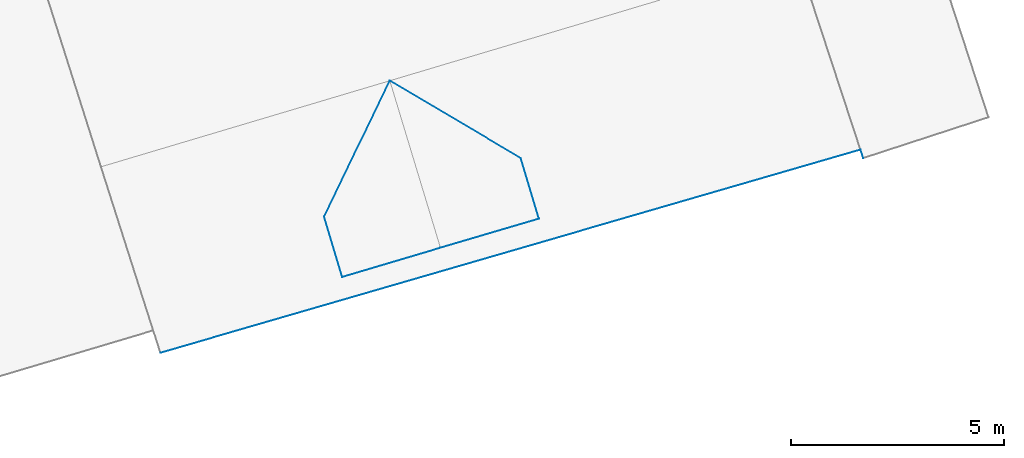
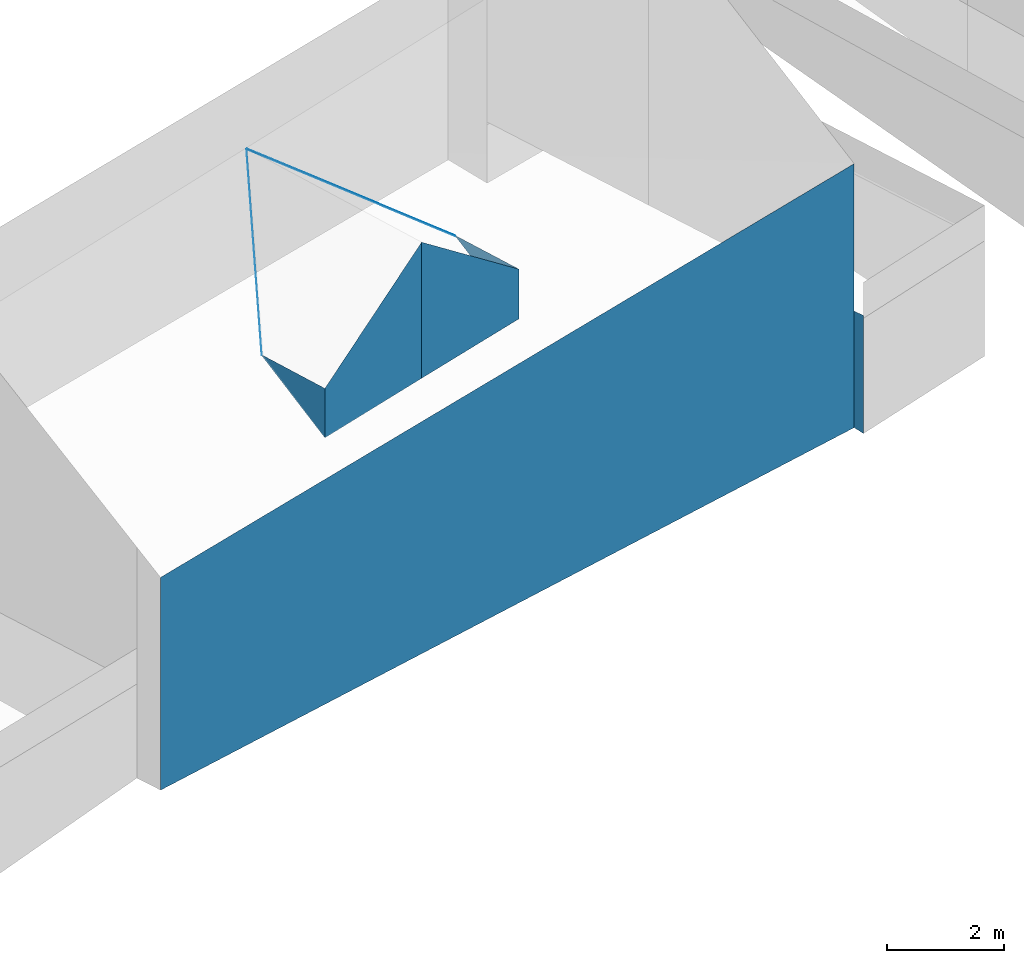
# Not in any storey, part 20 of 57: 8 walls.
"""IFC4 building model written with IfcOpenShell, lengths in metres."""

from ifc_helpers import new_model, entity, si_unit, converted_unit, origin, place, context, subcontext, project, spatial, face_set, surface_model, element, save


model = new_model("IFC4")

# Units and contexts
model_context = context("Model", 3, precision=1e-05, world=origin())
body_context = subcontext(model_context, "Body", "Model", "MODEL_VIEW")
ifc_project = project(units=[converted_unit("PLANEANGLEUNIT", "DEGREE", entity("IfcRatioMeasure", 0.0174532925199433), si_unit("PLANEANGLEUNIT", "RADIAN"), dimensions=[0, 0, 0, 0, 0, 0, 0]), si_unit("AREAUNIT", "SQUARE_METRE"), si_unit("LENGTHUNIT", "METRE")], contexts=[model_context])

# Site, building
site_placement = place(None, origin())
site = spatial("IfcSite", under=ifc_project, at=site_placement, Name="_site")
building_1_placement = place(site_placement, origin())
building_1 = spatial("IfcBuilding", under=site, at=building_1_placement, Name="_building")

# Wall
wall_1_placement = place(building_1_placement, origin())
element("IfcWall", 1, at=wall_1_placement, inside=building_1, Name="Wall", PredefinedType="NOTDEFINED", context=body_context, shape_type="SurfaceModel", body=[
    surface_model("IfcFaceBasedSurfaceModel", [(138.698, 137.892, 118.75), (138.632, 138.094, 118.74), (138.632, 138.094, 116.307), (138.698, 137.892, 116.282)], [face_set([[[0, 1, 2, 3]]])]),
])

# Building
building_2_placement = place(site_placement, origin())
building_2 = spatial("IfcBuilding", under=site, at=building_2_placement, Name="_building")

# Walls
wall_2_placement = place(building_2_placement, origin())
element("IfcWall", 2, at=wall_2_placement, inside=building_2, Name="Wall", PredefinedType="NOTDEFINED", context=body_context, shape_type="SurfaceModel", body=[
    surface_model("IfcFaceBasedSurfaceModel", [(126.018, 136.518, 123.2), (127.561, 139.715, 125.033), (127.561, 139.715, 125.013), (126.018, 136.518, 123.18)], [face_set([[[0, 1, 2, 3]]])]),
])
wall_3_placement = place(building_2_placement, origin())
element("IfcWall", 3, at=wall_3_placement, inside=building_2, Name="Wall", PredefinedType="NOTDEFINED", context=body_context, shape_type="SurfaceModel", body=[
    surface_model("IfcFaceBasedSurfaceModel", [(138.632, 138.094, 121.82), (122.17, 133.316, 121.84), (122.17, 133.316, 117.395), (138.632, 138.094, 116.307)], [face_set([[[0, 1, 2, 3]]])]),
])
wall_4_placement = place(building_2_placement, origin())
element("IfcWall", 4, at=wall_4_placement, inside=building_2, Name="Wall", PredefinedType="NOTDEFINED", context=body_context, shape_type="SurfaceModel", body=[
    surface_model("IfcFaceBasedSurfaceModel", [(126.445, 135.097, 123.21), (126.018, 136.518, 123.2), (126.018, 136.518, 123.18), (126.445, 135.097, 122.177)], [face_set([[[0, 1, 2, 3]]])]),
])
wall_5_placement = place(building_2_placement, origin())
element("IfcWall", 5, at=wall_5_placement, inside=building_2, Name="Wall", PredefinedType="NOTDEFINED", context=body_context, shape_type="SurfaceModel", body=[
    surface_model("IfcFaceBasedSurfaceModel", [(127.561, 139.715, 125.033), (130.643, 137.891, 123.235), (130.643, 137.891, 123.215), (127.561, 139.715, 125.013)], [face_set([[[0, 1, 2, 3]]])]),
])
wall_6_placement = place(building_2_placement, origin())
element("IfcWall", 6, at=wall_6_placement, inside=building_2, Name="Wall", PredefinedType="NOTDEFINED", context=body_context, shape_type="SurfaceModel", body=[
    surface_model("IfcFaceBasedSurfaceModel", [(131.07, 136.47, 123.25), (128.752, 135.784, 125.04), (128.752, 135.784, 122.196), (131.07, 136.47, 122.211)], [face_set([[[0, 1, 2, 3]]])]),
])
wall_7_placement = place(building_2_placement, origin())
element("IfcWall", 7, at=wall_7_placement, inside=building_2, Name="Wall", PredefinedType="NOTDEFINED", context=body_context, shape_type="SurfaceModel", body=[
    surface_model("IfcFaceBasedSurfaceModel", [(128.752, 135.784, 125.04), (126.445, 135.097, 123.21), (126.445, 135.097, 122.177), (128.752, 135.784, 122.196)], [face_set([[[0, 1, 2, 3]]])]),
])
wall_8_placement = place(building_2_placement, origin())
element("IfcWall", 8, at=wall_8_placement, inside=building_2, Name="Wall", PredefinedType="NOTDEFINED", context=body_context, shape_type="SurfaceModel", body=[
    surface_model("IfcFaceBasedSurfaceModel", [(130.643, 137.891, 123.235), (131.07, 136.47, 123.25), (131.07, 136.47, 122.211), (130.643, 137.891, 123.215)], [face_set([[[0, 1, 2, 3]]])]),
])

save(model, "model.ifc")
